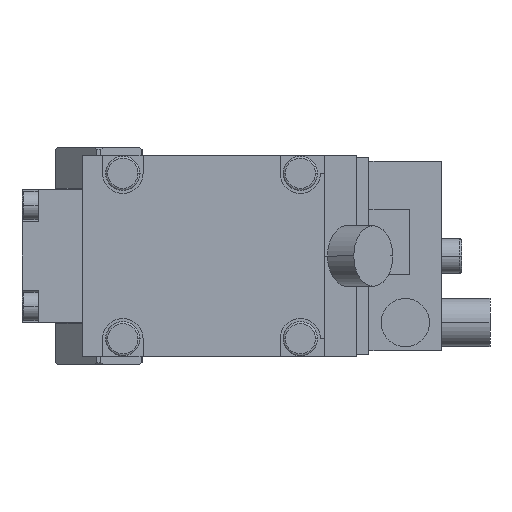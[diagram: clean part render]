
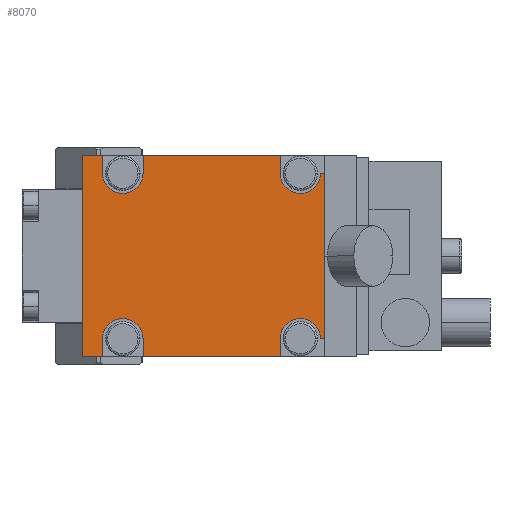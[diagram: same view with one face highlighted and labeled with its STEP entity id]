
A CAD part, left-side view. The second image highlights one B-rep face of the part: STEP entity #8070.
In plain terms, the highlighted planar face has unit normal (-1, 0, 0).
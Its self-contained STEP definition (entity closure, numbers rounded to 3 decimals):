
#6898=CARTESIAN_POINT('Vertex',(-226.,-45.,25.)) ;
#6928=CARTESIAN_POINT('Vertex',(-226.,4.,25.)) ;
#6931=CARTESIAN_POINT('Line Origine',(-226.,1.5,25.)) ;
#6935=CARTESIAN_POINT('Vertex',(-226.,-1.,25.)) ;
#6956=CARTESIAN_POINT('Vertex',(-226.,-11.,25.)) ;
#6959=CARTESIAN_POINT('Line Origine',(-226.,-28.,25.)) ;
#7022=CARTESIAN_POINT('Vertex',(-226.,-56.,-20.5)) ;
#7027=CARTESIAN_POINT('Line Origine',(-226.,-55.5,-20.5)) ;
#7031=CARTESIAN_POINT('Vertex',(-226.,-55.,-20.5)) ;
#7058=CARTESIAN_POINT('Line Origine',(-226.,-1.,22.75)) ;
#7062=CARTESIAN_POINT('Vertex',(-226.,-1.,20.5)) ;
#7100=CARTESIAN_POINT('Vertex',(-226.,4.,-25.)) ;
#7103=CARTESIAN_POINT('Line Origine',(-226.,4.,0.)) ;
#7143=CARTESIAN_POINT('Line Origine',(-226.,-45.,22.75)) ;
#7147=CARTESIAN_POINT('Vertex',(-226.,-45.,20.5)) ;
#7198=CARTESIAN_POINT('Axis2P3D Location',(-226.,-50.,-20.5)) ;
#7202=CARTESIAN_POINT('Vertex',(-226.,-45.,-20.5)) ;
#7229=CARTESIAN_POINT('Axis2P3D Location',(-226.,-6.,20.5)) ;
#7233=CARTESIAN_POINT('Vertex',(-226.,-11.,20.5)) ;
#7276=CARTESIAN_POINT('Axis2P3D Location',(-226.,-50.,20.5)) ;
#7280=CARTESIAN_POINT('Vertex',(-226.,-55.,20.5)) ;
#7302=CARTESIAN_POINT('Line Origine',(-226.,-45.,-22.75)) ;
#7306=CARTESIAN_POINT('Vertex',(-226.,-45.,-25.)) ;
#7826=CARTESIAN_POINT('Vertex',(-226.,-11.,-25.)) ;
#7829=CARTESIAN_POINT('Line Origine',(-226.,-11.,-22.75)) ;
#7833=CARTESIAN_POINT('Vertex',(-226.,-11.,-20.5)) ;
#7853=CARTESIAN_POINT('Axis2P3D Location',(-226.,-6.,-20.5)) ;
#7857=CARTESIAN_POINT('Vertex',(-226.,-1.,-20.5)) ;
#7872=CARTESIAN_POINT('Line Origine',(-226.,-1.,-22.75)) ;
#7876=CARTESIAN_POINT('Vertex',(-226.,-1.,-25.)) ;
#7924=CARTESIAN_POINT('Line Origine',(-226.,-11.,22.75)) ;
#7965=CARTESIAN_POINT('Line Origine',(-226.,1.5,-25.)) ;
#7975=CARTESIAN_POINT('Line Origine',(-226.,-28.,-25.)) ;
#8022=CARTESIAN_POINT('Line Origine',(-226.,-55.5,20.5)) ;
#8026=CARTESIAN_POINT('Vertex',(-226.,-56.,20.5)) ;
#8041=CARTESIAN_POINT('Axis2P3D Location',(-226.,0.,0.)) ;
#8047=CARTESIAN_POINT('Control Point',(-226.,-56.,20.5)) ;
#8048=CARTESIAN_POINT('Control Point',(-226.,-56.,-20.5)) ;
#6932=DIRECTION('Vector Direction',(0.,-1.,0.)) ;
#6960=DIRECTION('Vector Direction',(0.,-1.,0.)) ;
#7028=DIRECTION('Vector Direction',(0.,-1.,0.)) ;
#7059=DIRECTION('Vector Direction',(0.,0.,-1.)) ;
#7104=DIRECTION('Vector Direction',(0.,0.,1.)) ;
#7144=DIRECTION('Vector Direction',(0.,0.,-1.)) ;
#7199=DIRECTION('Axis2P3D Direction',(-1.,0.,0.)) ;
#7230=DIRECTION('Axis2P3D Direction',(-1.,0.,0.)) ;
#7277=DIRECTION('Axis2P3D Direction',(-1.,0.,0.)) ;
#7303=DIRECTION('Vector Direction',(0.,0.,1.)) ;
#7830=DIRECTION('Vector Direction',(0.,0.,-1.)) ;
#7854=DIRECTION('Axis2P3D Direction',(-1.,0.,0.)) ;
#7873=DIRECTION('Vector Direction',(0.,0.,1.)) ;
#7925=DIRECTION('Vector Direction',(0.,0.,1.)) ;
#7966=DIRECTION('Vector Direction',(0.,1.,0.)) ;
#7976=DIRECTION('Vector Direction',(0.,1.,0.)) ;
#8023=DIRECTION('Vector Direction',(0.,-1.,0.)) ;
#8042=DIRECTION('Axis2P3D Direction',(-1.,0.,0.)) ;
#8043=DIRECTION('Axis2P3D XDirection',(0.,-1.,0.)) ;
#7200=AXIS2_PLACEMENT_3D('Circle Axis2P3D',#7198,#7199,$) ;
#7231=AXIS2_PLACEMENT_3D('Circle Axis2P3D',#7229,#7230,$) ;
#7278=AXIS2_PLACEMENT_3D('Circle Axis2P3D',#7276,#7277,$) ;
#7855=AXIS2_PLACEMENT_3D('Circle Axis2P3D',#7853,#7854,$) ;
#8044=AXIS2_PLACEMENT_3D('Plane Axis2P3D',#8041,#8042,#8043) ;
#8051=ORIENTED_EDGE('',*,*,#7979,.T.) ;
#8052=ORIENTED_EDGE('',*,*,#7308,.F.) ;
#8053=ORIENTED_EDGE('',*,*,#7204,.F.) ;
#8054=ORIENTED_EDGE('',*,*,#7033,.F.) ;
#8055=ORIENTED_EDGE('',*,*,#8049,.T.) ;
#8056=ORIENTED_EDGE('',*,*,#8028,.F.) ;
#8057=ORIENTED_EDGE('',*,*,#7282,.F.) ;
#8058=ORIENTED_EDGE('',*,*,#7149,.F.) ;
#8059=ORIENTED_EDGE('',*,*,#6963,.T.) ;
#8060=ORIENTED_EDGE('',*,*,#7928,.F.) ;
#8061=ORIENTED_EDGE('',*,*,#7235,.F.) ;
#8062=ORIENTED_EDGE('',*,*,#7064,.F.) ;
#8063=ORIENTED_EDGE('',*,*,#6937,.T.) ;
#8064=ORIENTED_EDGE('',*,*,#7107,.T.) ;
#8065=ORIENTED_EDGE('',*,*,#7969,.T.) ;
#8066=ORIENTED_EDGE('',*,*,#7878,.F.) ;
#8067=ORIENTED_EDGE('',*,*,#7859,.F.) ;
#8068=ORIENTED_EDGE('',*,*,#7835,.F.) ;
#6933=VECTOR('Line Direction',#6932,1.) ;
#6961=VECTOR('Line Direction',#6960,1.) ;
#7029=VECTOR('Line Direction',#7028,1.) ;
#7060=VECTOR('Line Direction',#7059,1.) ;
#7105=VECTOR('Line Direction',#7104,1.) ;
#7145=VECTOR('Line Direction',#7144,1.) ;
#7304=VECTOR('Line Direction',#7303,1.) ;
#7831=VECTOR('Line Direction',#7830,1.) ;
#7874=VECTOR('Line Direction',#7873,1.) ;
#7926=VECTOR('Line Direction',#7925,1.) ;
#7967=VECTOR('Line Direction',#7966,1.) ;
#7977=VECTOR('Line Direction',#7976,1.) ;
#8024=VECTOR('Line Direction',#8023,1.) ;
#8070=ADVANCED_FACE('Zylinderboden',(#8069),#8045,.T.) ;
#8046=B_SPLINE_CURVE_WITH_KNOTS('',1,(#8047,#8048),.UNSPECIFIED.,.F.,.U.,(2,2),(4.5,45.5),.UNSPECIFIED.) ;
#7201=CIRCLE('generated circle',#7200,5.) ;
#7232=CIRCLE('generated circle',#7231,5.) ;
#7279=CIRCLE('generated circle',#7278,5.) ;
#7856=CIRCLE('generated circle',#7855,5.) ;
#6937=EDGE_CURVE('',#6936,#6929,#6934,.F.) ;
#6963=EDGE_CURVE('',#6899,#6957,#6962,.F.) ;
#7033=EDGE_CURVE('',#7023,#7032,#7030,.F.) ;
#7064=EDGE_CURVE('',#6936,#7063,#7061,.T.) ;
#7107=EDGE_CURVE('',#6929,#7101,#7106,.F.) ;
#7149=EDGE_CURVE('',#6899,#7148,#7146,.T.) ;
#7204=EDGE_CURVE('',#7032,#7203,#7201,.T.) ;
#7235=EDGE_CURVE('',#7063,#7234,#7232,.T.) ;
#7282=EDGE_CURVE('',#7148,#7281,#7279,.T.) ;
#7308=EDGE_CURVE('',#7203,#7307,#7305,.F.) ;
#7835=EDGE_CURVE('',#7827,#7834,#7832,.F.) ;
#7859=EDGE_CURVE('',#7834,#7858,#7856,.T.) ;
#7878=EDGE_CURVE('',#7858,#7877,#7875,.F.) ;
#7928=EDGE_CURVE('',#7234,#6957,#7927,.T.) ;
#7969=EDGE_CURVE('',#7101,#7877,#7968,.F.) ;
#7979=EDGE_CURVE('',#7827,#7307,#7978,.F.) ;
#8028=EDGE_CURVE('',#7281,#8027,#8025,.T.) ;
#8049=EDGE_CURVE('',#7023,#8027,#8046,.F.) ;
#8050=EDGE_LOOP('',(#8051,#8052,#8053,#8054,#8055,#8056,#8057,#8058,#8059,#8060,#8061,#8062,#8063,#8064,#8065,#8066,#8067,#8068)) ;
#8069=FACE_OUTER_BOUND('',#8050,.T.) ;
#6934=LINE('Line',#6931,#6933) ;
#6962=LINE('Line',#6959,#6961) ;
#7030=LINE('Line',#7027,#7029) ;
#7061=LINE('Line',#7058,#7060) ;
#7106=LINE('Line',#7103,#7105) ;
#7146=LINE('Line',#7143,#7145) ;
#7305=LINE('Line',#7302,#7304) ;
#7832=LINE('Line',#7829,#7831) ;
#7875=LINE('Line',#7872,#7874) ;
#7927=LINE('Line',#7924,#7926) ;
#7968=LINE('Line',#7965,#7967) ;
#7978=LINE('Line',#7975,#7977) ;
#8025=LINE('Line',#8022,#8024) ;
#8045=PLANE('Plane',#8044) ;
#6899=VERTEX_POINT('',#6898) ;
#6929=VERTEX_POINT('',#6928) ;
#6936=VERTEX_POINT('',#6935) ;
#6957=VERTEX_POINT('',#6956) ;
#7023=VERTEX_POINT('',#7022) ;
#7032=VERTEX_POINT('',#7031) ;
#7063=VERTEX_POINT('',#7062) ;
#7101=VERTEX_POINT('',#7100) ;
#7148=VERTEX_POINT('',#7147) ;
#7203=VERTEX_POINT('',#7202) ;
#7234=VERTEX_POINT('',#7233) ;
#7281=VERTEX_POINT('',#7280) ;
#7307=VERTEX_POINT('',#7306) ;
#7827=VERTEX_POINT('',#7826) ;
#7834=VERTEX_POINT('',#7833) ;
#7858=VERTEX_POINT('',#7857) ;
#7877=VERTEX_POINT('',#7876) ;
#8027=VERTEX_POINT('',#8026) ;
